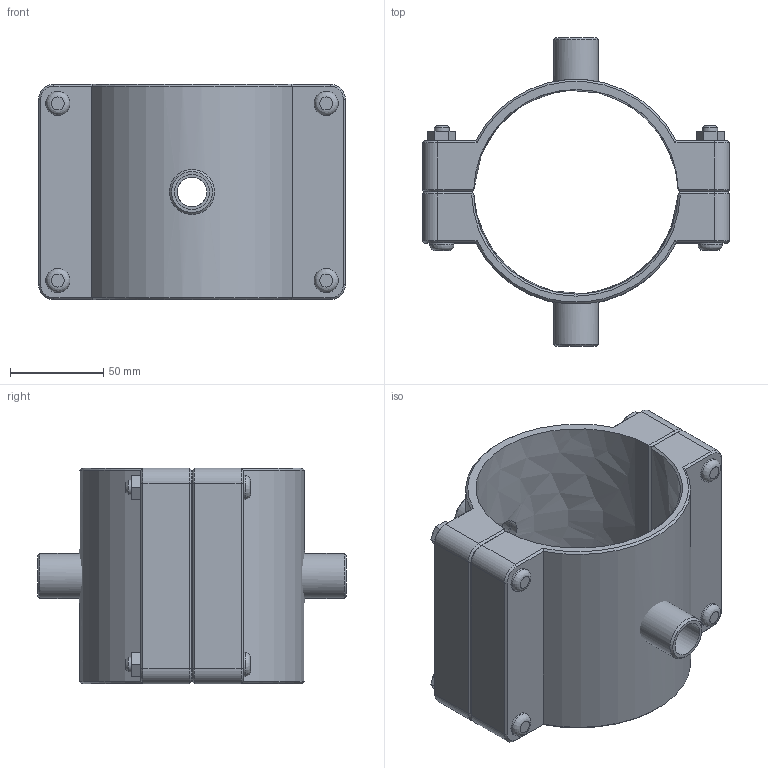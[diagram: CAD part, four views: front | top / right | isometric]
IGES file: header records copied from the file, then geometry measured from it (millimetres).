
Global section: file name: 161760110005_161860110005.ipt; native system: Autodesk Inventor 2015; preprocessor: unknown; author: KIM; date: 20170618.093735; units: millimetre
Bounding box: 165 x 166 x 116 mm (x, y, z)
Volume: 547120.7 mm3; surface area: 123726.7 mm2
Topology: 3 solids, 3 shells, 151 faces, 350 edges, 221 vertices
Faces by surface type: plane 84, cone 26, cylinder 24, revolution 17
Full cylindrical faces by diameter (mm): 8 x4, 13 x8, 24.22 x2
